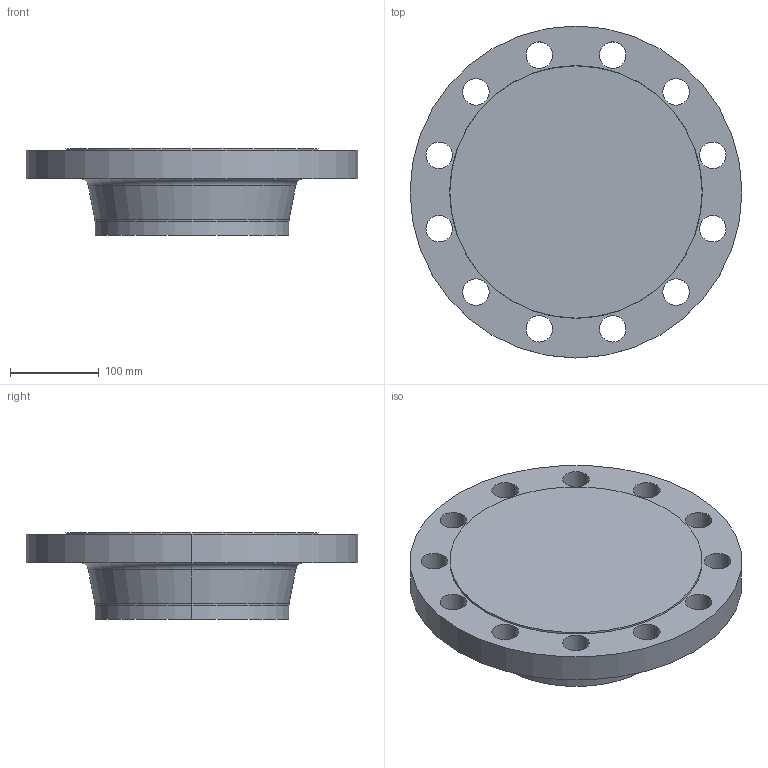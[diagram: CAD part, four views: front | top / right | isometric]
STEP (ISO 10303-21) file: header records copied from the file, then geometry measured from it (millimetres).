
FILE_DESCRIPTION (( 'STEP AP214' ), '1' );
FILE_NAME ('PN40 DN200 Type 21(ii) - Type B Face.STEP', '2019-01-05T02:00:53', ( '' ), ( '' ), 'SwSTEP 2.0', 'SolidWorks 2019', '' );
FILE_SCHEMA (( 'AUTOMOTIVE_DESIGN' ));
Length unit declared in the file: millimetre
Products named in the file (1): PN40 DN200 Type 21(ii) - Type B Face
Bounding box: 375 x 375 x 98 mm (x, y, z)
Volume: 5967338.6 mm3; surface area: 316790.1 mm2
Topology: 1 solids, 1 shells, 40 faces, 102 edges, 66 vertices
Faces by surface type: cylinder 28, torus 4, cone 4, plane 4
Entity records: 1330 total; most frequent: DIRECTION 254, CARTESIAN_POINT 209, ORIENTED_EDGE 204, AXIS2_PLACEMENT_3D 111, EDGE_CURVE 102, CIRCLE 70, VERTEX_POINT 66, EDGE_LOOP 66
